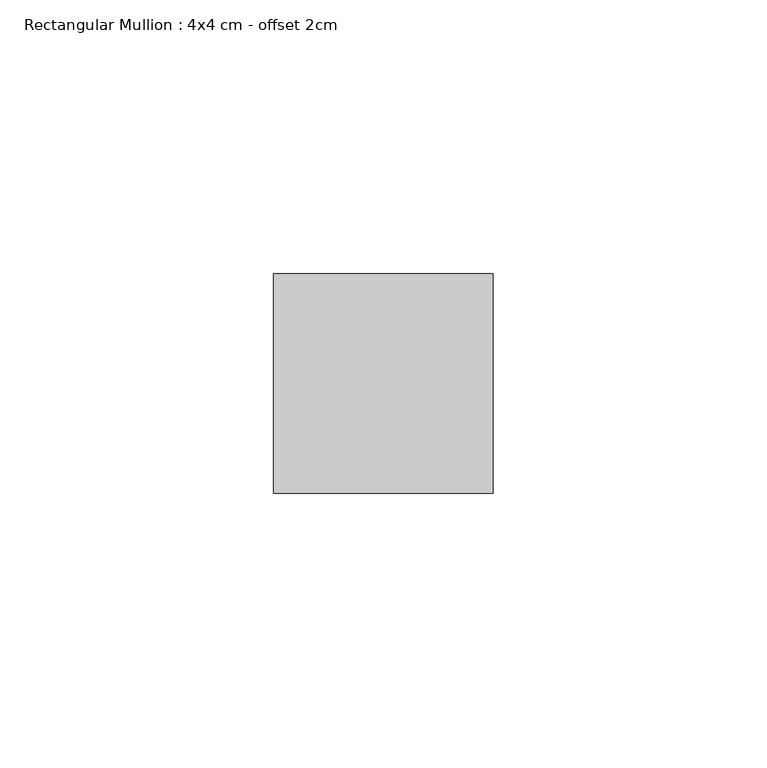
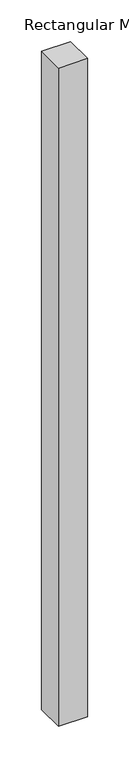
"""IFC4 building model written with IfcOpenShell, lengths in millimetres: member geometry, Rectangular Mullion : 4x4 cm - offset 2cm."""

from ifc_helpers import new_model, si_unit, frame, origin, place, context, project, spatial, polyline, outline, extrude, source, transform, mapped, element, save


def rectangular_mullion_4x4_cm_offset_2cm_f367b127(model_context):
    return source(origin(), model_context, "Body", "SweptSolid", [
        extrude(outline(polyline([(40.0, 40.0), (40.0, 0.0), (0.0, 0.0), (0.0, 40.0), (40.0, 40.0)])), frame((0.0, 0.0, -960.0), z_axis=(0.0, 0.0, 1.0), x_axis=(1.0, 0.0, 0.0)), (0.0, 0.0, 1.0), 960.0),
    ])


if __name__ == "__main__":
    model = new_model("IFC4")
    model_context = context("Model", 3, world=origin())
    ifc_project = project(units=[si_unit("LENGTHUNIT", "METRE", prefix="MILLI")], contexts=[model_context])
    site = spatial("IfcSite", under=ifc_project)
    building = spatial("IfcBuilding", under=site)
    placement = place(None, origin())
    rectangular_mullion_4x4_cm_offset_2cm_shape = rectangular_mullion_4x4_cm_offset_2cm_f367b127(model_context)
    element("IfcMember", 1, ObjectType="Rectangular Mullion : 4x4 cm - offset 2cm", at=placement, inside=building, context=model_context, shape_type="MappedRepresentation", body=[
        mapped(rectangular_mullion_4x4_cm_offset_2cm_shape, transform((0.0, 0.0, 0.0), x_axis=(1.0, 0.0, 0.0), y_axis=(0.0, 1.0, 0.0), z_axis=(0.0, 0.0, 1.0))),
    ])
    save(model, "model.ifc")
